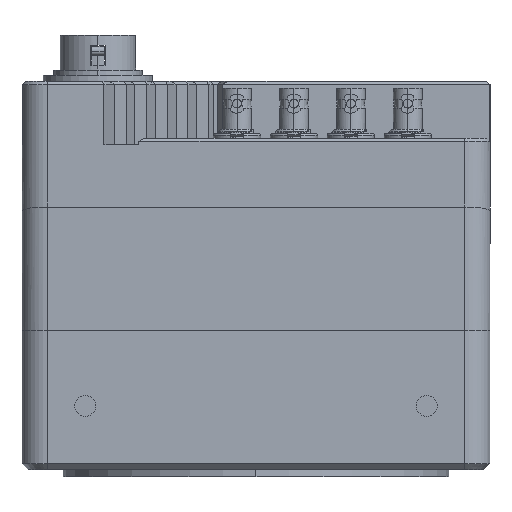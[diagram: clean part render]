
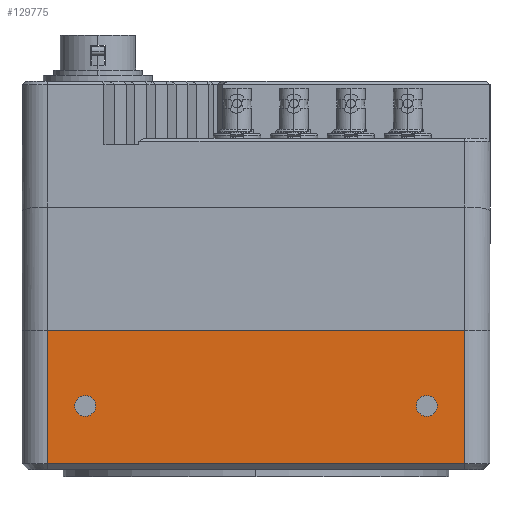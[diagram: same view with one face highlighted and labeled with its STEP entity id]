
A CAD part, left-side view. The second image highlights one B-rep face of the part: STEP entity #129775.
In plain terms, the highlighted planar face has unit normal (-1, 0, 0).
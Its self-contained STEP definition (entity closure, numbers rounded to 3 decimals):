
#294 = DIRECTION ( 'NONE',  ( 0., -1., 0. ) ) ;
#3036 = ORIENTED_EDGE ( 'NONE', *, *, #8804, .F. ) ;
#8804 = EDGE_CURVE ( 'NONE', #103061, #31833, #142735, .T. ) ;
#11445 = CARTESIAN_POINT ( 'NONE',  ( -37., -27.839, 62. ) ) ;
#11950 = CIRCLE ( 'NONE', #12967, 1.65 ) ;
#12967 = AXIS2_PLACEMENT_3D ( 'NONE', #46041, #57253, #89008 ) ;
#13669 = DIRECTION ( 'NONE',  ( 0., -1., 0. ) ) ;
#13746 = CARTESIAN_POINT ( 'NONE',  ( -37., 32.161, 74. ) ) ;
#14532 = CARTESIAN_POINT ( 'NONE',  ( -37., 36.161, 74. ) ) ;
#20183 = CARTESIAN_POINT ( 'NONE',  ( -37., 36.161, 50.5 ) ) ;
#21472 = DIRECTION ( 'NONE',  ( 0., -1., 0. ) ) ;
#22274 = EDGE_CURVE ( 'NONE', #27944, #144888, #22749, .T. ) ;
#22749 = LINE ( 'NONE', #73106, #113613 ) ;
#24163 = DIRECTION ( 'NONE',  ( 0., -1., 0. ) ) ;
#27944 = VERTEX_POINT ( 'NONE', #122791 ) ;
#28086 = CARTESIAN_POINT ( 'NONE',  ( -37., -33.839, 74. ) ) ;
#29485 = AXIS2_PLACEMENT_3D ( 'NONE', #124211, #134914, #294 ) ;
#29838 = EDGE_CURVE ( 'NONE', #34543, #27944, #91179, .T. ) ;
#30740 = CARTESIAN_POINT ( 'NONE',  ( -37., 27.811, 62. ) ) ;
#30915 = EDGE_CURVE ( 'NONE', #55355, #34543, #63067, .T. ) ;
#31833 = VERTEX_POINT ( 'NONE', #143422 ) ;
#32917 = DIRECTION ( 'NONE',  ( -1., 0., 0. ) ) ;
#34543 = VERTEX_POINT ( 'NONE', #126346 ) ;
#36971 = VERTEX_POINT ( 'NONE', #30740 ) ;
#37108 = ORIENTED_EDGE ( 'NONE', *, *, #29838, .T. ) ;
#37696 = CIRCLE ( 'NONE', #29485, 1.65 ) ;
#38893 = VECTOR ( 'NONE', #13669, 1000. ) ;
#40717 = ORIENTED_EDGE ( 'NONE', *, *, #22274, .T. ) ;
#41366 = EDGE_LOOP ( 'NONE', ( #105953, #84115 ) ) ;
#42250 = VERTEX_POINT ( 'NONE', #96418 ) ;
#44297 = DIRECTION ( 'NONE',  ( 0., 0., -1. ) ) ;
#45701 = CIRCLE ( 'NONE', #56910, 1.65 ) ;
#46041 = CARTESIAN_POINT ( 'NONE',  ( -37., 26.161, 62. ) ) ;
#48755 = FACE_BOUND ( 'NONE', #41366, .T. ) ;
#52405 = CARTESIAN_POINT ( 'NONE',  ( -37., -29.489, 62. ) ) ;
#54531 = CARTESIAN_POINT ( 'NONE',  ( -37., 32.161, 50.5 ) ) ;
#55169 = EDGE_LOOP ( 'NONE', ( #58375, #37108, #40717, #78489 ) ) ;
#55355 = VERTEX_POINT ( 'NONE', #13746 ) ;
#56910 = AXIS2_PLACEMENT_3D ( 'NONE', #11445, #100295, #24163 ) ;
#57253 = DIRECTION ( 'NONE',  ( -1., 0., 0. ) ) ;
#57922 = AXIS2_PLACEMENT_3D ( 'NONE', #20183, #32917, #121200 ) ;
#58375 = ORIENTED_EDGE ( 'NONE', *, *, #30915, .T. ) ;
#63067 = LINE ( 'NONE', #54531, #99681 ) ;
#69341 = EDGE_CURVE ( 'NONE', #31833, #103061, #45701, .T. ) ;
#71477 = FACE_BOUND ( 'NONE', #94967, .T. ) ;
#73106 = CARTESIAN_POINT ( 'NONE',  ( -37., -33.839, 50.5 ) ) ;
#73308 = VECTOR ( 'NONE', #103334, 1000. ) ;
#76393 = PLANE ( 'NONE',  #57922 ) ;
#78452 = FACE_OUTER_BOUND ( 'NONE', #55169, .T. ) ;
#78489 = ORIENTED_EDGE ( 'NONE', *, *, #130447, .F. ) ;
#84115 = ORIENTED_EDGE ( 'NONE', *, *, #123011, .F. ) ;
#84346 = DIRECTION ( 'NONE',  ( 0., 0., 1. ) ) ;
#89008 = DIRECTION ( 'NONE',  ( 0., -1., 0. ) ) ;
#91179 = LINE ( 'NONE', #126376, #38893 ) ;
#94967 = EDGE_LOOP ( 'NONE', ( #3036, #116270 ) ) ;
#96418 = CARTESIAN_POINT ( 'NONE',  ( -37., 24.511, 62. ) ) ;
#99681 = VECTOR ( 'NONE', #44297, 1000. ) ;
#100295 = DIRECTION ( 'NONE',  ( -1., 0., 0. ) ) ;
#103061 = VERTEX_POINT ( 'NONE', #52405 ) ;
#103334 = DIRECTION ( 'NONE',  ( 0., -1., 0. ) ) ;
#104143 = AXIS2_PLACEMENT_3D ( 'NONE', #143923, #121494, #21472 ) ;
#105953 = ORIENTED_EDGE ( 'NONE', *, *, #129940, .F. ) ;
#113613 = VECTOR ( 'NONE', #84346, 1000. ) ;
#116270 = ORIENTED_EDGE ( 'NONE', *, *, #69341, .F. ) ;
#121200 = DIRECTION ( 'NONE',  ( 0., 0., 1. ) ) ;
#121494 = DIRECTION ( 'NONE',  ( -1., 0., 0. ) ) ;
#122791 = CARTESIAN_POINT ( 'NONE',  ( -37., -33.839, 52.9 ) ) ;
#123011 = EDGE_CURVE ( 'NONE', #36971, #42250, #37696, .T. ) ;
#124211 = CARTESIAN_POINT ( 'NONE',  ( -37., 26.161, 62. ) ) ;
#126346 = CARTESIAN_POINT ( 'NONE',  ( -37., 32.161, 52.9 ) ) ;
#126376 = CARTESIAN_POINT ( 'NONE',  ( -37., -33.839, 52.9 ) ) ;
#129775 = ADVANCED_FACE ( 'NONE', ( #78452, #71477, #48755 ), #76393, .T. ) ;
#129940 = EDGE_CURVE ( 'NONE', #42250, #36971, #11950, .T. ) ;
#130447 = EDGE_CURVE ( 'NONE', #55355, #144888, #132536, .T. ) ;
#132536 = LINE ( 'NONE', #14532, #73308 ) ;
#134914 = DIRECTION ( 'NONE',  ( -1., 0., 0. ) ) ;
#142735 = CIRCLE ( 'NONE', #104143, 1.65 ) ;
#143422 = CARTESIAN_POINT ( 'NONE',  ( -37., -26.189, 62. ) ) ;
#143923 = CARTESIAN_POINT ( 'NONE',  ( -37., -27.839, 62. ) ) ;
#144888 = VERTEX_POINT ( 'NONE', #28086 ) ;
